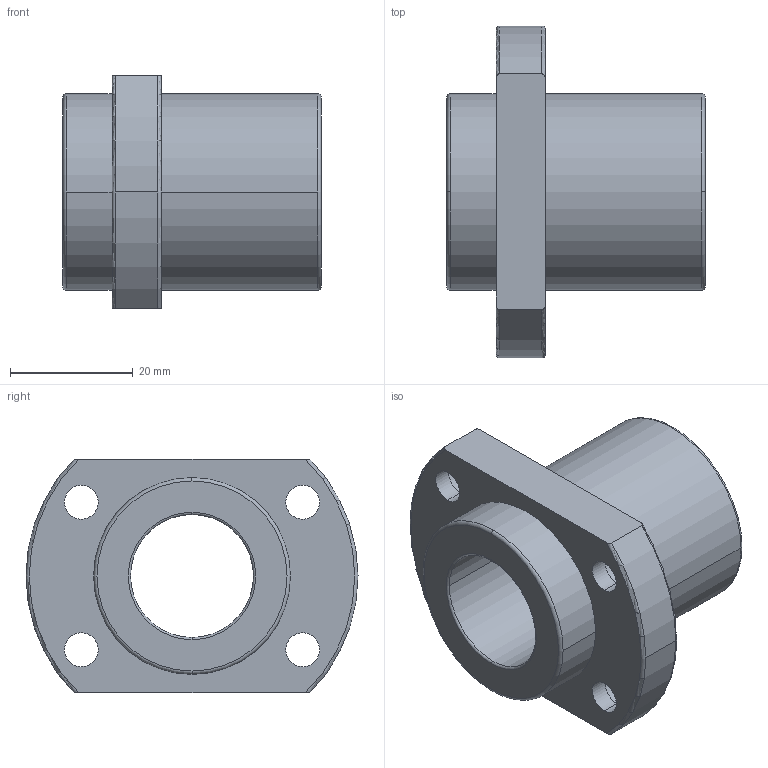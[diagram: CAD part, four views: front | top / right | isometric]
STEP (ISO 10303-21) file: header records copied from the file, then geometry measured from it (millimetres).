
FILE_DESCRIPTION(('FreeCAD Model'),'2;1');
FILE_NAME('Open CASCADE Shape Model','2021-05-03T14:28:49',('Author'),( ''),'Open CASCADE STEP processor 7.5','FreeCAD','Unknown');
FILE_SCHEMA(('AUTOMOTIVE_DESIGN { 1 0 10303 214 1 1 1 1 }'));
Length unit declared in the file: millimetre
Products named in the file (1): linear_lmhp20uu
Bounding box: 42 x 54 x 38 mm (x, y, z)
Volume: 27486.4 mm3; surface area: 10932.4 mm2
Topology: 1 solids, 1 shells, 48 faces, 124 edges, 84 vertices
Faces by surface type: cylinder 26, torus 12, plane 10
Entity records: 4208 total; most frequent: CARTESIAN_POINT 1685, DIRECTION 496, ORIENTED_EDGE 248, PCURVE 248, DEFINITIONAL_REPRESENTATION 248, LINE 212, VECTOR 212, AXIS2_PLACEMENT_3D 133
